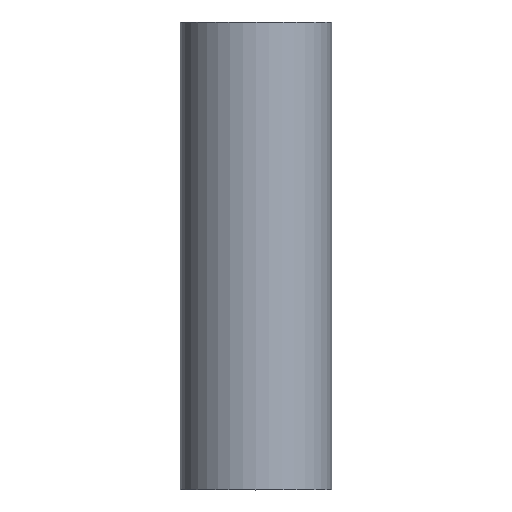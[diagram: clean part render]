
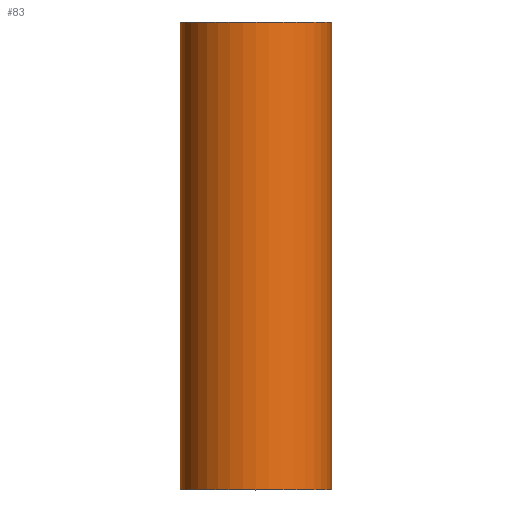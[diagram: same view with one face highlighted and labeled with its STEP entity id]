
A CAD part, top view. The second image highlights one B-rep face of the part: STEP entity #83.
In plain terms, the highlighted cylindrical face has radius 31.5 mm (diameter 63 mm), a partial arc.
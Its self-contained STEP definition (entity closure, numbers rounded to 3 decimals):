
#3 = ORIENTED_EDGE ( 'NONE', *, *, #65, .F. ) ;
#5 = VECTOR ( 'NONE', #87, 1000. ) ;
#13 = CARTESIAN_POINT ( 'NONE',  ( 0., 0., 0. ) ) ;
#14 = DIRECTION ( 'NONE',  ( -1., 0., 0. ) ) ;
#16 = LINE ( 'NONE', #180, #5 ) ;
#30 = VECTOR ( 'NONE', #183, 1000. ) ;
#34 = DIRECTION ( 'NONE',  ( 0., 1., 0. ) ) ;
#41 = AXIS2_PLACEMENT_3D ( 'NONE', #84, #34, #14 ) ;
#44 = EDGE_LOOP ( 'NONE', ( #96, #215, #169, #3 ) ) ;
#46 = DIRECTION ( 'NONE',  ( 0., -1., 0. ) ) ;
#47 = AXIS2_PLACEMENT_3D ( 'NONE', #123, #48, #158 ) ;
#48 = DIRECTION ( 'NONE',  ( 0., -1., 0. ) ) ;
#49 = FACE_OUTER_BOUND ( 'NONE', #44, .T. ) ;
#63 = CARTESIAN_POINT ( 'NONE',  ( 31.5, -195., 0. ) ) ;
#64 = CARTESIAN_POINT ( 'NONE',  ( 31.5, -195., 0. ) ) ;
#65 = EDGE_CURVE ( 'NONE', #234, #80, #16, .T. ) ;
#69 = CIRCLE ( 'NONE', #211, 31.5 ) ;
#80 = VERTEX_POINT ( 'NONE', #198 ) ;
#81 = CARTESIAN_POINT ( 'NONE',  ( 31.5, 0., 0. ) ) ;
#83 = ADVANCED_FACE ( 'NONE', ( #49 ), #160, .T. ) ;
#84 = CARTESIAN_POINT ( 'NONE',  ( 0., -195., 0. ) ) ;
#87 = DIRECTION ( 'NONE',  ( 0., 1., 0. ) ) ;
#96 = ORIENTED_EDGE ( 'NONE', *, *, #152, .F. ) ;
#98 = CIRCLE ( 'NONE', #47, 31.5 ) ;
#103 = DIRECTION ( 'NONE',  ( 1., 0., 0. ) ) ;
#123 = CARTESIAN_POINT ( 'NONE',  ( 0., -195., 0. ) ) ;
#138 = EDGE_CURVE ( 'NONE', #192, #80, #69, .T. ) ;
#139 = LINE ( 'NONE', #64, #30 ) ;
#152 = EDGE_CURVE ( 'NONE', #170, #234, #98, .T. ) ;
#158 = DIRECTION ( 'NONE',  ( 1., 0., 0. ) ) ;
#160 = CYLINDRICAL_SURFACE ( 'NONE', #41, 31.5 ) ;
#169 = ORIENTED_EDGE ( 'NONE', *, *, #138, .T. ) ;
#170 = VERTEX_POINT ( 'NONE', #63 ) ;
#178 = CARTESIAN_POINT ( 'NONE',  ( -31.5, -195., 0. ) ) ;
#180 = CARTESIAN_POINT ( 'NONE',  ( -31.5, -195., 0. ) ) ;
#183 = DIRECTION ( 'NONE',  ( 0., 1., 0. ) ) ;
#191 = EDGE_CURVE ( 'NONE', #170, #192, #139, .T. ) ;
#192 = VERTEX_POINT ( 'NONE', #81 ) ;
#198 = CARTESIAN_POINT ( 'NONE',  ( -31.5, 0., 0. ) ) ;
#211 = AXIS2_PLACEMENT_3D ( 'NONE', #13, #46, #103 ) ;
#215 = ORIENTED_EDGE ( 'NONE', *, *, #191, .T. ) ;
#234 = VERTEX_POINT ( 'NONE', #178 ) ;
